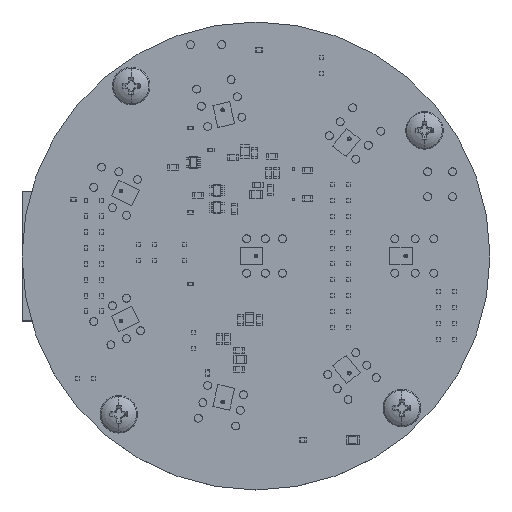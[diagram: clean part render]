
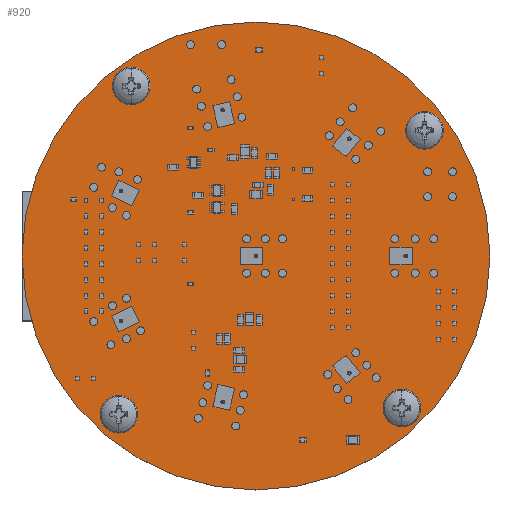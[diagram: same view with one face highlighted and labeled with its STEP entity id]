
A CAD part, top view. The second image highlights one B-rep face of the part: STEP entity #920.
In plain terms, the highlighted planar face has unit normal (0, 0, 1).
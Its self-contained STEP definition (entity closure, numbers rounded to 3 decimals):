
#827 = VERTEX_POINT('',#828);
#828 = CARTESIAN_POINT('',(75.,37.5,1.585));
#835 = CYLINDRICAL_SURFACE('',#836,37.5);
#836 = AXIS2_PLACEMENT_3D('',#837,#838,#839);
#837 = CARTESIAN_POINT('',(37.5,37.5,0.));
#838 = DIRECTION('',(0.,0.,-1.));
#839 = DIRECTION('',(1.,0.,0.));
#854 = EDGE_CURVE('',#827,#827,#855,.T.);
#855 = SURFACE_CURVE('',#856,(#861,#868),.PCURVE_S1.);
#856 = CIRCLE('',#857,37.5);
#857 = AXIS2_PLACEMENT_3D('',#858,#859,#860);
#858 = CARTESIAN_POINT('',(37.5,37.5,1.585));
#859 = DIRECTION('',(0.,0.,1.));
#860 = DIRECTION('',(1.,0.,0.));
#861 = PCURVE('',#835,#862);
#862 = DEFINITIONAL_REPRESENTATION('',(#863),#867);
#863 = LINE('',#864,#865);
#864 = CARTESIAN_POINT('',(0.,-1.585));
#865 = VECTOR('',#866,1.);
#866 = DIRECTION('',(-1.,0.));
#867 = ( GEOMETRIC_REPRESENTATION_CONTEXT(2) 
PARAMETRIC_REPRESENTATION_CONTEXT() REPRESENTATION_CONTEXT('2D SPACE',''
  ) );
#868 = PCURVE('',#869,#874);
#869 = PLANE('',#870);
#870 = AXIS2_PLACEMENT_3D('',#871,#872,#873);
#871 = CARTESIAN_POINT('',(75.,37.5,1.585));
#872 = DIRECTION('',(0.,0.,-1.));
#873 = DIRECTION('',(-1.,0.,0.));
#874 = DEFINITIONAL_REPRESENTATION('',(#875),#883);
#875 = ( BOUNDED_CURVE() B_SPLINE_CURVE(2,(#876,#877,#878,#879,#880,#881
,#882),.UNSPECIFIED.,.F.,.F.) B_SPLINE_CURVE_WITH_KNOTS((1,2,2,2,2,1),(
    -2.094,0.,2.094,4.189,6.283,
8.378),.UNSPECIFIED.) CURVE() GEOMETRIC_REPRESENTATION_ITEM() 
RATIONAL_B_SPLINE_CURVE((1.,0.5,1.,0.5,1.,0.5,1.)) REPRESENTATION_ITEM(
  '') );
#876 = CARTESIAN_POINT('',(0.,0.));
#877 = CARTESIAN_POINT('',(0.,64.952));
#878 = CARTESIAN_POINT('',(56.25,32.476));
#879 = CARTESIAN_POINT('',(112.5,0.));
#880 = CARTESIAN_POINT('',(56.25,-32.476));
#881 = CARTESIAN_POINT('',(0.,-64.952));
#882 = CARTESIAN_POINT('',(0.,0.));
#883 = ( GEOMETRIC_REPRESENTATION_CONTEXT(2) 
PARAMETRIC_REPRESENTATION_CONTEXT() REPRESENTATION_CONTEXT('2D SPACE',''
  ) );
#920 = ADVANCED_FACE('',(#921),#869,.F.);
#921 = FACE_BOUND('',#922,.T.);
#922 = EDGE_LOOP('',(#923));
#923 = ORIENTED_EDGE('',*,*,#854,.T.);
